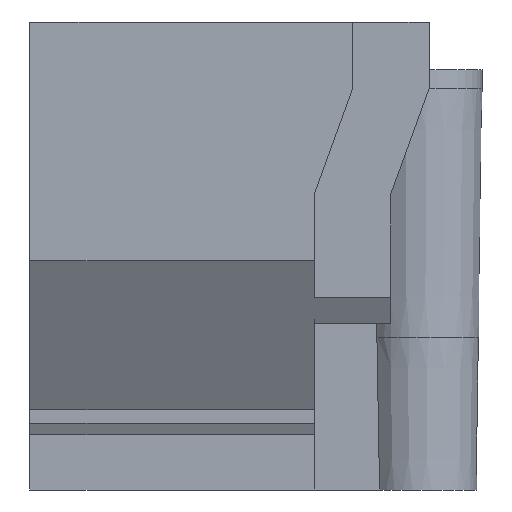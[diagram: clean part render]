
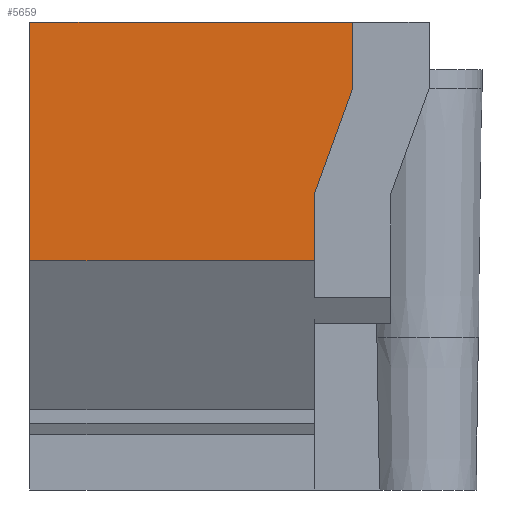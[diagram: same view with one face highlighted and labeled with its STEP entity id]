
A CAD part, front view. The second image highlights one B-rep face of the part: STEP entity #5659.
In plain terms, the highlighted planar face has unit normal (0, -1, 0).
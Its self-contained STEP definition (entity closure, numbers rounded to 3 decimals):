
#32 = PLANE('',#33);
#33 = AXIS2_PLACEMENT_3D('',#34,#35,#36);
#34 = CARTESIAN_POINT('',(-15.,-190.,-0.1));
#35 = DIRECTION('',(1.,0.,-0.));
#36 = DIRECTION('',(0.,0.,1.));
#107 = VERTEX_POINT('',#108);
#108 = CARTESIAN_POINT('',(-15.,-180.5,24.5));
#121 = PLANE('',#122);
#122 = AXIS2_PLACEMENT_3D('',#123,#124,#125);
#123 = CARTESIAN_POINT('',(0.,-3.198,24.5));
#124 = DIRECTION('',(0.,0.,1.));
#125 = DIRECTION('',(1.,0.,-0.));
#132 = EDGE_CURVE('',#133,#107,#135,.T.);
#133 = VERTEX_POINT('',#134);
#134 = CARTESIAN_POINT('',(-15.,-180.5,12.));
#135 = SURFACE_CURVE('',#136,(#140,#146),.PCURVE_S1.);
#136 = LINE('',#137,#138);
#137 = CARTESIAN_POINT('',(-15.,-180.5,5.95));
#138 = VECTOR('',#139,1.);
#139 = DIRECTION('',(0.,-0.,1.));
#140 = PCURVE('',#32,#141);
#141 = DEFINITIONAL_REPRESENTATION('',(#142),#145);
#142 = B_SPLINE_CURVE_WITH_KNOTS('',1,(#143,#144),.UNSPECIFIED.,.F.,.F.,
  (2,2),(6.05,18.55),.PIECEWISE_BEZIER_KNOTS.);
#143 = CARTESIAN_POINT('',(12.1,-9.5));
#144 = CARTESIAN_POINT('',(24.6,-9.5));
#145 = ( GEOMETRIC_REPRESENTATION_CONTEXT(2) 
PARAMETRIC_REPRESENTATION_CONTEXT() REPRESENTATION_CONTEXT('2D SPACE',''
  ) );
#146 = PCURVE('',#147,#152);
#147 = PLANE('',#148);
#148 = AXIS2_PLACEMENT_3D('',#149,#150,#151);
#149 = CARTESIAN_POINT('',(-196.5,-180.5,12.));
#150 = DIRECTION('',(0.,1.,0.));
#151 = DIRECTION('',(1.,0.,0.));
#152 = DEFINITIONAL_REPRESENTATION('',(#153),#156);
#153 = B_SPLINE_CURVE_WITH_KNOTS('',1,(#154,#155),.UNSPECIFIED.,.F.,.F.,
  (2,2),(6.05,18.55),.PIECEWISE_BEZIER_KNOTS.);
#154 = CARTESIAN_POINT('',(181.5,0.));
#155 = CARTESIAN_POINT('',(181.5,-12.5));
#156 = ( GEOMETRIC_REPRESENTATION_CONTEXT(2) 
PARAMETRIC_REPRESENTATION_CONTEXT() REPRESENTATION_CONTEXT('2D SPACE',''
  ) );
#184 = B_SPLINE_SURFACE_WITH_KNOTS('',1,1,(
    (#185,#186)
    ,(#187,#188
    )),.UNSPECIFIED.,.F.,.F.,.F.,(2,2),(2,2),(0.,393.),(0.,1.),
  .PIECEWISE_BEZIER_KNOTS.);
#185 = CARTESIAN_POINT('',(-192.,-176.,4.2));
#186 = CARTESIAN_POINT('',(-196.5,-180.5,12.));
#187 = CARTESIAN_POINT('',(192.,-176.,4.2));
#188 = CARTESIAN_POINT('',(196.5,-180.5,12.));
#5603 = VERTEX_POINT('',#5604);
#5604 = CARTESIAN_POINT('',(-0.1,-180.5,12.));
#5624 = PLANE('',#5625);
#5625 = AXIS2_PLACEMENT_3D('',#5626,#5627,#5628);
#5626 = CARTESIAN_POINT('',(-0.1,-229.9,8.));
#5627 = DIRECTION('',(1.,0.,0.));
#5628 = DIRECTION('',(-0.,1.,0.));
#5639 = EDGE_CURVE('',#133,#5603,#5640,.T.);
#5640 = SURFACE_CURVE('',#5641,(#5645,#5652),.PCURVE_S1.);
#5641 = LINE('',#5642,#5643);
#5642 = CARTESIAN_POINT('',(-196.5,-180.5,12.));
#5643 = VECTOR('',#5644,1.);
#5644 = DIRECTION('',(1.,0.,0.));
#5645 = PCURVE('',#184,#5646);
#5646 = DEFINITIONAL_REPRESENTATION('',(#5647),#5651);
#5647 = LINE('',#5648,#5649);
#5648 = CARTESIAN_POINT('',(0.,1.));
#5649 = VECTOR('',#5650,1.);
#5650 = DIRECTION('',(1.,0.));
#5651 = ( GEOMETRIC_REPRESENTATION_CONTEXT(2) 
PARAMETRIC_REPRESENTATION_CONTEXT() REPRESENTATION_CONTEXT('2D SPACE',''
  ) );
#5652 = PCURVE('',#147,#5653);
#5653 = DEFINITIONAL_REPRESENTATION('',(#5654),#5658);
#5654 = LINE('',#5655,#5656);
#5655 = CARTESIAN_POINT('',(0.,0.));
#5656 = VECTOR('',#5657,1.);
#5657 = DIRECTION('',(1.,0.));
#5658 = ( GEOMETRIC_REPRESENTATION_CONTEXT(2) 
PARAMETRIC_REPRESENTATION_CONTEXT() REPRESENTATION_CONTEXT('2D SPACE',''
  ) );
#5659 = ADVANCED_FACE('',(#5660),#147,.F.);
#5660 = FACE_BOUND('',#5661,.F.);
#5661 = EDGE_LOOP('',(#5662,#5663,#5686,#5712,#5738,#5757));
#5662 = ORIENTED_EDGE('',*,*,#132,.T.);
#5663 = ORIENTED_EDGE('',*,*,#5664,.T.);
#5664 = EDGE_CURVE('',#107,#5665,#5667,.T.);
#5665 = VERTEX_POINT('',#5666);
#5666 = CARTESIAN_POINT('',(1.9,-180.5,24.5));
#5667 = SURFACE_CURVE('',#5668,(#5672,#5679),.PCURVE_S1.);
#5668 = LINE('',#5669,#5670);
#5669 = CARTESIAN_POINT('',(-196.5,-180.5,24.5));
#5670 = VECTOR('',#5671,1.);
#5671 = DIRECTION('',(1.,0.,0.));
#5672 = PCURVE('',#147,#5673);
#5673 = DEFINITIONAL_REPRESENTATION('',(#5674),#5678);
#5674 = LINE('',#5675,#5676);
#5675 = CARTESIAN_POINT('',(0.,-12.5));
#5676 = VECTOR('',#5677,1.);
#5677 = DIRECTION('',(1.,0.));
#5678 = ( GEOMETRIC_REPRESENTATION_CONTEXT(2) 
PARAMETRIC_REPRESENTATION_CONTEXT() REPRESENTATION_CONTEXT('2D SPACE',''
  ) );
#5679 = PCURVE('',#121,#5680);
#5680 = DEFINITIONAL_REPRESENTATION('',(#5681),#5685);
#5681 = LINE('',#5682,#5683);
#5682 = CARTESIAN_POINT('',(-196.5,-177.302));
#5683 = VECTOR('',#5684,1.);
#5684 = DIRECTION('',(1.,0.));
#5685 = ( GEOMETRIC_REPRESENTATION_CONTEXT(2) 
PARAMETRIC_REPRESENTATION_CONTEXT() REPRESENTATION_CONTEXT('2D SPACE',''
  ) );
#5686 = ORIENTED_EDGE('',*,*,#5687,.T.);
#5687 = EDGE_CURVE('',#5665,#5688,#5690,.T.);
#5688 = VERTEX_POINT('',#5689);
#5689 = CARTESIAN_POINT('',(1.9,-180.5,21.));
#5690 = SURFACE_CURVE('',#5691,(#5695,#5701),.PCURVE_S1.);
#5691 = LINE('',#5692,#5693);
#5692 = CARTESIAN_POINT('',(1.9,-180.5,25.));
#5693 = VECTOR('',#5694,1.);
#5694 = DIRECTION('',(0.,0.,-1.));
#5695 = PCURVE('',#147,#5696);
#5696 = DEFINITIONAL_REPRESENTATION('',(#5697),#5700);
#5697 = B_SPLINE_CURVE_WITH_KNOTS('',1,(#5698,#5699),.UNSPECIFIED.,.F.,
  .F.,(2,2),(0.5,4.),.PIECEWISE_BEZIER_KNOTS.);
#5698 = CARTESIAN_POINT('',(198.4,-12.5));
#5699 = CARTESIAN_POINT('',(198.4,-9.));
#5700 = ( GEOMETRIC_REPRESENTATION_CONTEXT(2) 
PARAMETRIC_REPRESENTATION_CONTEXT() REPRESENTATION_CONTEXT('2D SPACE',''
  ) );
#5701 = PCURVE('',#5702,#5707);
#5702 = PLANE('',#5703);
#5703 = AXIS2_PLACEMENT_3D('',#5704,#5705,#5706);
#5704 = CARTESIAN_POINT('',(1.9,-229.9,38.));
#5705 = DIRECTION('',(1.,0.,0.));
#5706 = DIRECTION('',(-0.,1.,0.));
#5707 = DEFINITIONAL_REPRESENTATION('',(#5708),#5711);
#5708 = B_SPLINE_CURVE_WITH_KNOTS('',1,(#5709,#5710),.UNSPECIFIED.,.F.,
  .F.,(2,2),(0.5,4.),.PIECEWISE_BEZIER_KNOTS.);
#5709 = CARTESIAN_POINT('',(49.4,-13.5));
#5710 = CARTESIAN_POINT('',(49.4,-17.));
#5711 = ( GEOMETRIC_REPRESENTATION_CONTEXT(2) 
PARAMETRIC_REPRESENTATION_CONTEXT() REPRESENTATION_CONTEXT('2D SPACE',''
  ) );
#5712 = ORIENTED_EDGE('',*,*,#5713,.T.);
#5713 = EDGE_CURVE('',#5688,#5714,#5716,.T.);
#5714 = VERTEX_POINT('',#5715);
#5715 = CARTESIAN_POINT('',(-0.1,-180.5,15.5));
#5716 = SURFACE_CURVE('',#5717,(#5721,#5727),.PCURVE_S1.);
#5717 = LINE('',#5718,#5719);
#5718 = CARTESIAN_POINT('',(-11.131,-180.5,-14.834));
#5719 = VECTOR('',#5720,1.);
#5720 = DIRECTION('',(-0.342,0.,-0.94));
#5721 = PCURVE('',#147,#5722);
#5722 = DEFINITIONAL_REPRESENTATION('',(#5723),#5726);
#5723 = B_SPLINE_CURVE_WITH_KNOTS('',1,(#5724,#5725),.UNSPECIFIED.,.F.,
  .F.,(2,2),(-38.13,-32.278),.PIECEWISE_BEZIER_KNOTS.);
#5724 = CARTESIAN_POINT('',(198.4,-9.));
#5725 = CARTESIAN_POINT('',(196.4,-3.5));
#5726 = ( GEOMETRIC_REPRESENTATION_CONTEXT(2) 
PARAMETRIC_REPRESENTATION_CONTEXT() REPRESENTATION_CONTEXT('2D SPACE',''
  ) );
#5727 = PCURVE('',#5728,#5733);
#5728 = PLANE('',#5729);
#5729 = AXIS2_PLACEMENT_3D('',#5730,#5731,#5732);
#5730 = CARTESIAN_POINT('',(1.9,-229.9,21.));
#5731 = DIRECTION('',(0.94,0.,-0.342));
#5732 = DIRECTION('',(0.,1.,0.));
#5733 = DEFINITIONAL_REPRESENTATION('',(#5734),#5737);
#5734 = B_SPLINE_CURVE_WITH_KNOTS('',1,(#5735,#5736),.UNSPECIFIED.,.F.,
  .F.,(2,2),(-38.13,-32.278),.PIECEWISE_BEZIER_KNOTS.);
#5735 = CARTESIAN_POINT('',(49.4,0.));
#5736 = CARTESIAN_POINT('',(49.4,-5.852));
#5737 = ( GEOMETRIC_REPRESENTATION_CONTEXT(2) 
PARAMETRIC_REPRESENTATION_CONTEXT() REPRESENTATION_CONTEXT('2D SPACE',''
  ) );
#5738 = ORIENTED_EDGE('',*,*,#5739,.T.);
#5739 = EDGE_CURVE('',#5714,#5603,#5740,.T.);
#5740 = SURFACE_CURVE('',#5741,(#5745,#5751),.PCURVE_S1.);
#5741 = LINE('',#5742,#5743);
#5742 = CARTESIAN_POINT('',(-0.1,-180.5,10.));
#5743 = VECTOR('',#5744,1.);
#5744 = DIRECTION('',(0.,0.,-1.));
#5745 = PCURVE('',#147,#5746);
#5746 = DEFINITIONAL_REPRESENTATION('',(#5747),#5750);
#5747 = B_SPLINE_CURVE_WITH_KNOTS('',1,(#5748,#5749),.UNSPECIFIED.,.F.,
  .F.,(2,2),(-5.5,-2.),.PIECEWISE_BEZIER_KNOTS.);
#5748 = CARTESIAN_POINT('',(196.4,-3.5));
#5749 = CARTESIAN_POINT('',(196.4,0.));
#5750 = ( GEOMETRIC_REPRESENTATION_CONTEXT(2) 
PARAMETRIC_REPRESENTATION_CONTEXT() REPRESENTATION_CONTEXT('2D SPACE',''
  ) );
#5751 = PCURVE('',#5624,#5752);
#5752 = DEFINITIONAL_REPRESENTATION('',(#5753),#5756);
#5753 = B_SPLINE_CURVE_WITH_KNOTS('',1,(#5754,#5755),.UNSPECIFIED.,.F.,
  .F.,(2,2),(-5.5,-2.),.PIECEWISE_BEZIER_KNOTS.);
#5754 = CARTESIAN_POINT('',(49.4,7.5));
#5755 = CARTESIAN_POINT('',(49.4,4.));
#5756 = ( GEOMETRIC_REPRESENTATION_CONTEXT(2) 
PARAMETRIC_REPRESENTATION_CONTEXT() REPRESENTATION_CONTEXT('2D SPACE',''
  ) );
#5757 = ORIENTED_EDGE('',*,*,#5639,.F.);
